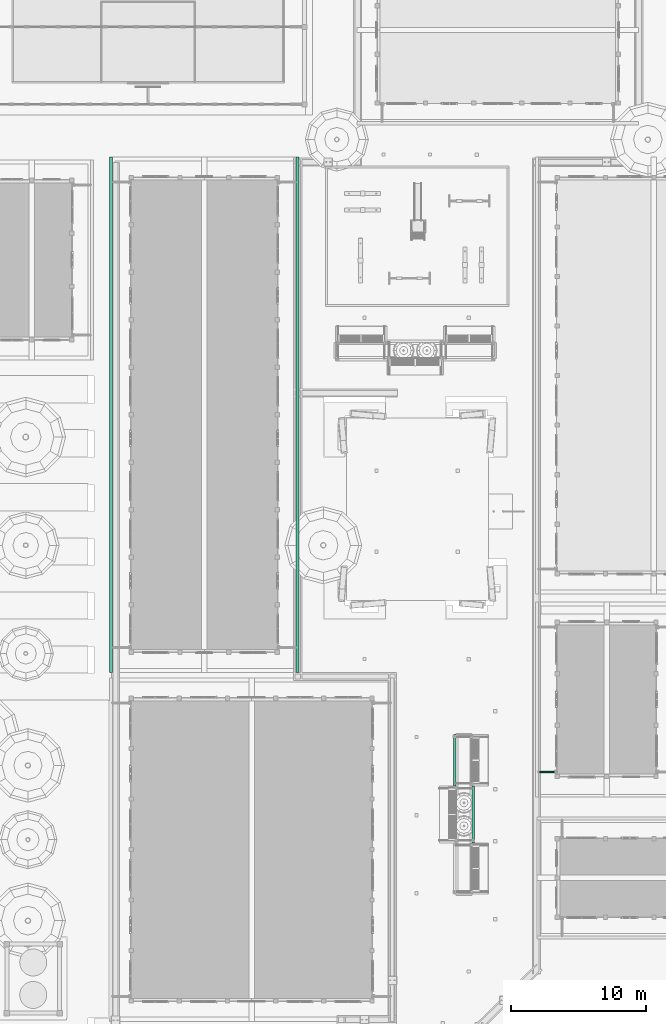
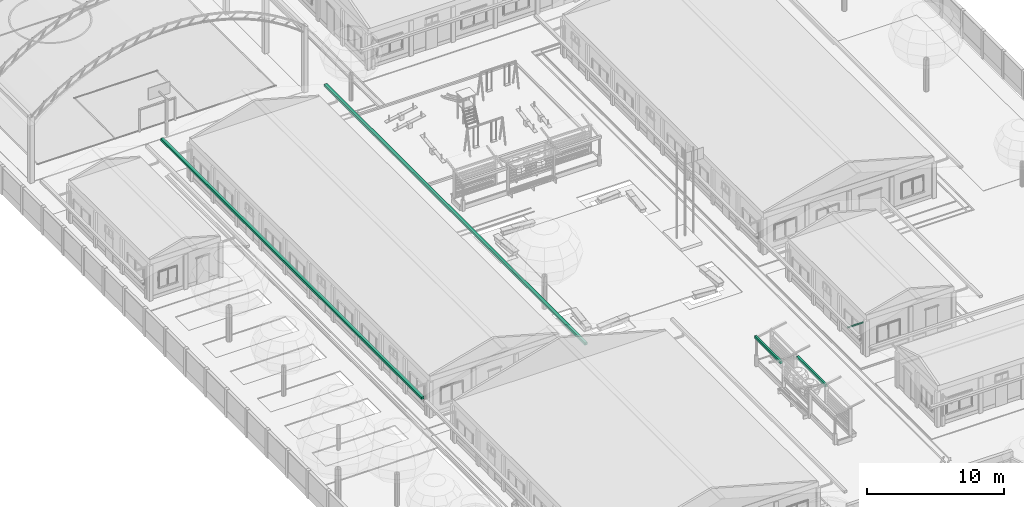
# One storey, part 101 of 177: 5 pipe segments.
"""IFC4 building model written with IfcOpenShell, lengths in metres."""

from ifc_helpers import new_model, si_unit, origin, origin_with_axes, place, context, subcontext, project, spatial, triangles, element, save


model = new_model("IFC4")

# Units and contexts
model_context = context("Model", 3, precision=1e-05, world=origin_with_axes())
body_context = subcontext(model_context, "Body", "Model", "MODEL_VIEW")
ifc_project = project(units=[si_unit("LENGTHUNIT", "METRE"), si_unit("AREAUNIT", "SQUARE_METRE"), si_unit("VOLUMEUNIT", "CUBIC_METRE"), si_unit("PLANEANGLEUNIT", "RADIAN")], contexts=[model_context])

# Site, building, storey
site_placement = place(None, origin_with_axes())
site = spatial("IfcSite", under=ifc_project, at=site_placement, Name="Predio Los Mangos - Morales, San Martín", CompositionType="ELEMENT")
building_placement = place(site_placement, origin())
building = spatial("IfcBuilding", under=site, at=building_placement, Name="Hogar de Refugio Temporal", CompositionType="ELEMENT")
storey_placement = place(building_placement, origin())
storey = spatial("IfcBuildingStorey", under=building, at=storey_placement, Name="NIVEL 1 (NPT +0.00)", CompositionType="ELEMENT", Elevation=0.0)

# Pipe segments
pipe_segment_1_placement = place(storey_placement, origin())
element("IfcPipeSegment", 1, at=pipe_segment_1_placement, inside=storey, Name="E-04_canaleta", ObjectType="Canaleta", PredefinedType="GUTTER", context=body_context, shape_type="Tessellation", body=[
    triangles([(12.18, 50.6, 3.13), (12.42, 50.6, 3.13), (12.42, 88.7, 3.13), (12.18, 88.7, 3.13), (12.18, 50.6, 3.33), (12.42, 50.6, 3.33), (12.42, 88.7, 3.33), (12.18, 88.7, 3.33)], [[1, 4, 3], [1, 3, 2], [5, 6, 7], [5, 7, 8], [1, 2, 6], [1, 6, 5], [2, 3, 7], [2, 7, 6], [3, 4, 8], [3, 8, 7], [4, 1, 5], [4, 5, 8]]),
])
pipe_segment_2_placement = place(storey_placement, origin())
element("IfcPipeSegment", 2, at=pipe_segment_2_placement, inside=storey, Name="E-04_canaleta", ObjectType="Canaleta", PredefinedType="GUTTER", context=body_context, shape_type="Tessellation", body=[
    triangles([(25.98, 50.6, 3.13), (26.22, 50.6, 3.13), (26.22, 88.7, 3.13), (25.98, 88.7, 3.13), (25.98, 50.6, 3.33), (26.22, 50.6, 3.33), (26.22, 88.7, 3.33), (25.98, 88.7, 3.33)], [[1, 4, 3], [1, 3, 2], [5, 6, 7], [5, 7, 8], [1, 2, 6], [1, 6, 5], [2, 3, 7], [2, 7, 6], [3, 4, 8], [3, 8, 7], [4, 1, 5], [4, 5, 8]]),
])
pipe_segment_3_placement = place(storey_placement, origin())
element("IfcPipeSegment", 3, at=pipe_segment_3_placement, inside=storey, Name="montante_desvio", ObjectType="Montante PVC 4\"", PredefinedType="RIGIDSEGMENT", context=body_context, shape_type="Tessellation", body=[
    triangles([(43.92, 43.25, 2.965), (45.21, 43.25, 2.965), (43.92, 43.2775, 2.9576), (45.21, 43.2775, 2.9576), (43.92, 43.2976, 2.9375), (45.21, 43.2976, 2.9375), (43.92, 43.305, 2.91), (45.21, 43.305, 2.91), (43.92, 43.2976, 2.8825), (45.21, 43.2976, 2.8825), (43.92, 43.2775, 2.8624), (45.21, 43.2775, 2.8624), (43.92, 43.25, 2.855), (45.21, 43.25, 2.855), (43.92, 43.2225, 2.8624), (45.21, 43.2225, 2.8624), (43.92, 43.2024, 2.8825), (45.21, 43.2024, 2.8825), (43.92, 43.195, 2.91), (45.21, 43.195, 2.91), (43.92, 43.2024, 2.9375), (45.21, 43.2024, 2.9375), (43.92, 43.2225, 2.9576), (45.21, 43.2225, 2.9576)], [[1, 2, 4], [1, 4, 3], [3, 4, 6], [3, 6, 5], [5, 6, 8], [5, 8, 7], [7, 8, 10], [7, 10, 9], [9, 10, 12], [9, 12, 11], [11, 12, 14], [11, 14, 13], [13, 14, 16], [13, 16, 15], [15, 16, 18], [15, 18, 17], [17, 18, 20], [17, 20, 19], [19, 20, 22], [19, 22, 21], [6, 4, 2], [2, 24, 22], [22, 20, 18], [18, 16, 14], [14, 12, 10], [10, 8, 6], [6, 2, 22], [22, 18, 14], [14, 10, 6], [22, 14, 6], [21, 22, 24], [21, 24, 23], [23, 24, 2], [23, 2, 1], [23, 1, 3], [3, 5, 7], [7, 9, 11], [11, 13, 15], [15, 17, 19], [19, 21, 23], [23, 3, 7], [7, 11, 15], [15, 19, 23], [7, 15, 23]]),
])
pipe_segment_4_placement = place(storey_placement, origin())
element("IfcPipeSegment", 4, at=pipe_segment_4_placement, inside=storey, Name="oc01_canaleta", ObjectType="Canaleta", PredefinedType="GUTTER", context=body_context, shape_type="Tessellation", body=[
    triangles([(39.18, 37.995, 2.49), (39.18, 42.205, 2.49), (39.0, 42.205, 2.49), (39.0, 37.995, 2.49), (39.18, 37.995, 2.71), (39.18, 42.205, 2.71), (39.0, 42.205, 2.71), (39.0, 37.995, 2.71)], [[1, 4, 3], [1, 3, 2], [5, 6, 7], [5, 7, 8], [1, 2, 6], [1, 6, 5], [2, 3, 7], [2, 7, 6], [3, 4, 8], [3, 8, 7], [4, 1, 5], [4, 5, 8]]),
])
pipe_segment_5_placement = place(storey_placement, origin())
element("IfcPipeSegment", 5, at=pipe_segment_5_placement, inside=storey, Name="oc01_canaleta", ObjectType="Canaleta", PredefinedType="GUTTER", context=body_context, shape_type="Tessellation", body=[
    triangles([(37.8, 42.205, 2.49), (37.8, 45.995, 2.49), (37.62, 45.995, 2.49), (37.62, 42.205, 2.49), (37.8, 42.205, 2.71), (37.8, 45.995, 2.71), (37.62, 45.995, 2.71), (37.62, 42.205, 2.71)], [[1, 4, 3], [1, 3, 2], [5, 6, 7], [5, 7, 8], [1, 2, 6], [1, 6, 5], [2, 3, 7], [2, 7, 6], [3, 4, 8], [3, 8, 7], [4, 1, 5], [4, 5, 8]]),
])

save(model, "model.ifc")
